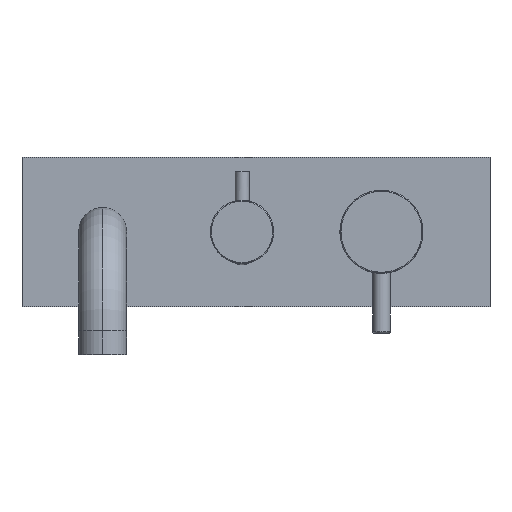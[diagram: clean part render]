
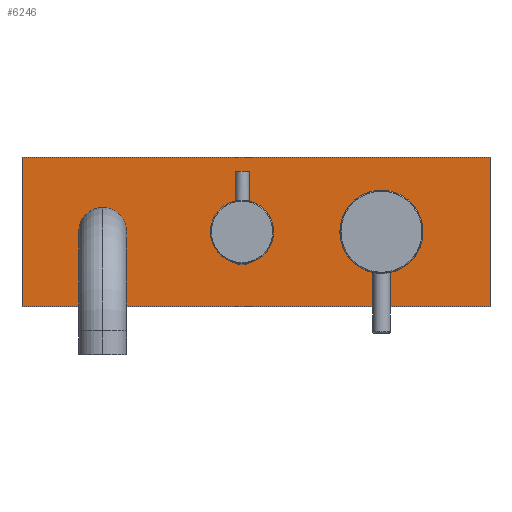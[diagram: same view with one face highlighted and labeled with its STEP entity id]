
A CAD part, top view. The second image highlights one B-rep face of the part: STEP entity #6246.
In plain terms, the highlighted planar face has unit normal (0, 0, 1).
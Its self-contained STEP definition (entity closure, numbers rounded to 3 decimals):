
#33=DIRECTION('',(-1.,0.,0.));
#34=VECTOR('',#33,235.);
#35=CARTESIAN_POINT('',(124.5,37.5,15.5));
#36=LINE('',#35,#34);
#37=DIRECTION('',(0.,1.,0.));
#38=VECTOR('',#37,75.);
#39=CARTESIAN_POINT('',(124.5,-37.5,15.5));
#40=LINE('',#39,#38);
#41=DIRECTION('',(1.,0.,0.));
#42=VECTOR('',#41,235.);
#43=CARTESIAN_POINT('',(-110.5,-37.5,15.5));
#44=LINE('',#43,#42);
#45=DIRECTION('',(0.,-1.,0.));
#46=VECTOR('',#45,75.);
#47=CARTESIAN_POINT('',(-110.5,37.5,15.5));
#48=LINE('',#47,#46);
#49=CARTESIAN_POINT('',(-70.,0.,15.5));
#50=DIRECTION('',(0.,0.,1.));
#51=DIRECTION('',(0.,1.,0.));
#52=AXIS2_PLACEMENT_3D('',#49,#50,#51);
#54=CARTESIAN_POINT('',(-70.,0.,15.5));
#55=DIRECTION('',(0.,0.,1.));
#56=DIRECTION('',(0.,-1.,0.));
#57=AXIS2_PLACEMENT_3D('',#54,#55,#56);
#59=CARTESIAN_POINT('',(0.,0.,15.5));
#60=DIRECTION('',(0.,0.,1.));
#61=DIRECTION('',(1.,0.,0.));
#62=AXIS2_PLACEMENT_3D('',#59,#60,#61);
#69=CARTESIAN_POINT('',(0.,0.,15.5));
#70=DIRECTION('',(0.,0.,1.));
#71=DIRECTION('',(-1.,0.,0.));
#72=AXIS2_PLACEMENT_3D('',#69,#70,#71);
#505=CARTESIAN_POINT('',(70.,0.,15.5));
#506=DIRECTION('',(0.,0.,1.));
#507=DIRECTION('',(-1.,0.,0.));
#508=AXIS2_PLACEMENT_3D('',#505,#506,#507);
#510=CARTESIAN_POINT('',(70.,0.,15.5));
#511=DIRECTION('',(0.,0.,1.));
#512=DIRECTION('',(1.,0.,0.));
#513=AXIS2_PLACEMENT_3D('',#510,#511,#512);
#5733=CARTESIAN_POINT('',(124.5,37.5,15.5));
#5734=CARTESIAN_POINT('',(-110.5,37.5,15.5));
#5735=VERTEX_POINT('',#5733);
#5736=VERTEX_POINT('',#5734);
#5737=CARTESIAN_POINT('',(-110.5,-37.5,15.5));
#5738=CARTESIAN_POINT('',(124.5,-37.5,15.5));
#5739=VERTEX_POINT('',#5737);
#5740=VERTEX_POINT('',#5738);
#5755=CARTESIAN_POINT('',(-70.,12.,15.5));
#5756=CARTESIAN_POINT('',(-70.,-12.,15.5));
#5757=VERTEX_POINT('',#5755);
#5758=VERTEX_POINT('',#5756);
#6137=CARTESIAN_POINT('',(50.,0.,15.5));
#6138=CARTESIAN_POINT('',(90.,0.,15.5));
#6139=VERTEX_POINT('',#6137);
#6140=VERTEX_POINT('',#6138);
#6141=CARTESIAN_POINT('',(15.8,0.,15.5));
#6142=CARTESIAN_POINT('',(-15.8,0.,15.5));
#6143=VERTEX_POINT('',#6141);
#6144=VERTEX_POINT('',#6142);
#6217=CARTESIAN_POINT('',(7.,0.,15.5));
#6218=DIRECTION('',(0.,0.,1.));
#6219=DIRECTION('',(-1.,0.,0.));
#6220=AXIS2_PLACEMENT_3D('',#6217,#6218,#6219);
#6221=PLANE('',#6220);
#6222=ORIENTED_EDGE('',*,*,#6169,.F.);
#6223=ORIENTED_EDGE('',*,*,#6184,.F.);
#6224=ORIENTED_EDGE('',*,*,#6198,.F.);
#6225=ORIENTED_EDGE('',*,*,#6211,.F.);
#6226=EDGE_LOOP('',(#6222,#6223,#6224,#6225));
#6227=FACE_OUTER_BOUND('',#6226,.F.);
#6229=ORIENTED_EDGE('',*,*,#6228,.T.);
#6231=ORIENTED_EDGE('',*,*,#6230,.T.);
#6232=EDGE_LOOP('',(#6229,#6231));
#6233=FACE_BOUND('',#6232,.F.);
#6235=ORIENTED_EDGE('',*,*,#6234,.T.);
#6237=ORIENTED_EDGE('',*,*,#6236,.T.);
#6238=EDGE_LOOP('',(#6235,#6237));
#6239=FACE_BOUND('',#6238,.F.);
#6241=ORIENTED_EDGE('',*,*,#6240,.T.);
#6243=ORIENTED_EDGE('',*,*,#6242,.T.);
#6244=EDGE_LOOP('',(#6241,#6243));
#6245=FACE_BOUND('',#6244,.F.);
#6246=ADVANCED_FACE('',(#6227,#6233,#6239,#6245),#6221,.T.);
#53=CIRCLE('',#52,12.);
#58=CIRCLE('',#57,12.);
#63=CIRCLE('',#62,15.8);
#73=CIRCLE('',#72,15.8);
#509=CIRCLE('',#508,20.);
#514=CIRCLE('',#513,20.);
#6169=EDGE_CURVE('',#5735,#5736,#36,.T.);
#6184=EDGE_CURVE('',#5740,#5735,#40,.T.);
#6198=EDGE_CURVE('',#5739,#5740,#44,.T.);
#6211=EDGE_CURVE('',#5736,#5739,#48,.T.);
#6228=EDGE_CURVE('',#6143,#6144,#63,.T.);
#6230=EDGE_CURVE('',#6144,#6143,#73,.T.);
#6234=EDGE_CURVE('',#6139,#6140,#509,.T.);
#6236=EDGE_CURVE('',#6140,#6139,#514,.T.);
#6240=EDGE_CURVE('',#5757,#5758,#53,.T.);
#6242=EDGE_CURVE('',#5758,#5757,#58,.T.);
